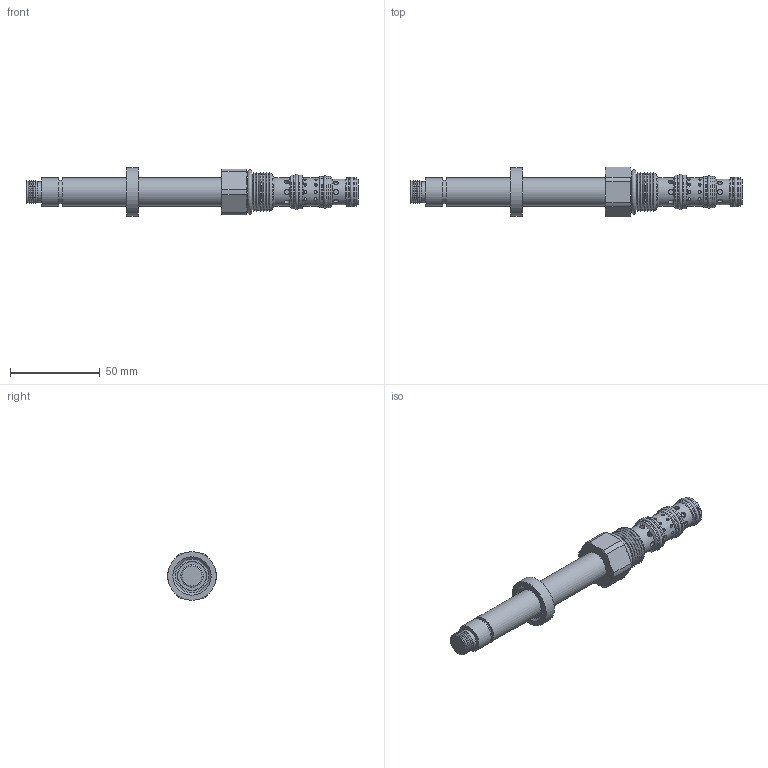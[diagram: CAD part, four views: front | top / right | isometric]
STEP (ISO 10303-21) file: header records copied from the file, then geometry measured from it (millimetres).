
FILE_DESCRIPTION((''),'2;1');
FILE_NAME('U:\sat files\DGS4P00.stp','2009-09-09T08:58:31',('Dan'),(''),'Autodesk Inventor 2009','Autodesk Inventor 2009','');
FILE_SCHEMA(('AUTOMOTIVE_DESIGN { 1 0 10303 214 1 1 1 1 }'));
Length unit declared in the file: inch
Products named in the file (13): DGS4P00; DGS4P001; DGS4P002; DGS4P003; DGS4P004; DGS4P005; DGS4P006; DGS4P007; DGS4P008; DGS4P009; DGS4P0010; DGS4P0011; DGS4P0012
Assembly tree (12 placements, depth 2):
  DGS4P00
    DGS4P001
    DGS4P002
    DGS4P003
    DGS4P004
    DGS4P005
    DGS4P006
    DGS4P007
    DGS4P008
    DGS4P009
    DGS4P0010
    DGS4P0011
    DGS4P0012
Bounding box: 184.99 x 27.77 x 26.97 mm (x, y, z)
Volume: 43316.8 mm3; surface area: 17781.4 mm2
Topology: 12 solids, 12 shells, 212 faces, 412 edges, 269 vertices
Faces by surface type: cylinder 81, plane 79, cone 46, torus 4, bspline 2
Full cylindrical faces by diameter (mm): 1.6 x24, 2.794 x16, 6.756 x1, 11.11 x1, 11.176 x1, 11.913 x1, 12.827 x1, 12.992 x1, 13.043 x2, 14.288 x1, 14.592 x1, 14.643 x2, 15.723 x2, 15.735 x2, 15.85 x1, 15.875 x3, 16.167 x1, 16.218 x2, 16.256 x1, 17.323 x3, 17.335 x2, 18.898 x2, 18.91 x2, 19.624 x1, 26.975 x1
Entity records: 6184 total; most frequent: CARTESIAN_POINT 2165, DIRECTION 830, ORIENTED_EDGE 500, AXIS2_PLACEMENT_3D 409, EDGE_LOOP 394, EDGE_CURVE 250, VERTEX_POINT 222, FACE_OUTER_BOUND 212
